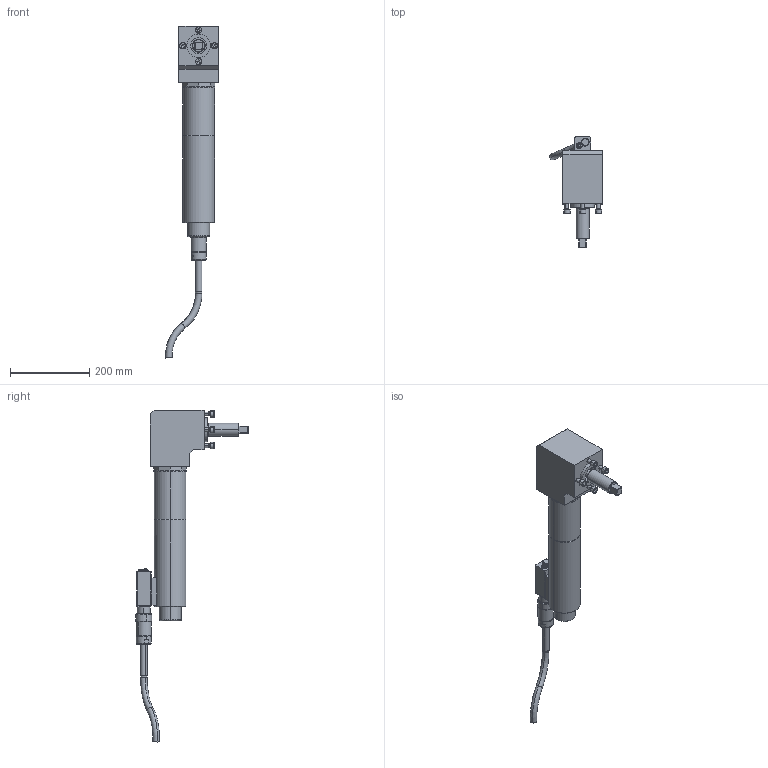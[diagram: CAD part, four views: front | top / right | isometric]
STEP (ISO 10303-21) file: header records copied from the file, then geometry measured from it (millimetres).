
FILE_DESCRIPTION(('CATIA V5 STEP'),'2;1');
FILE_NAME('O:\3D-Schrauber\stp\7920338_ECR326_AW325_AllCATPart.stp','2010-05-05T11:02:47+00:00',('none'),('none'),'CATIA Version 5 Release 19 SP 3 (IN-10)','CATIA V5 STEP AP214','none');
FILE_SCHEMA(('AUTOMOTIVE_DESIGN { 1 0 10303 214 1 1 1 1 }'));
Length unit declared in the file: millimetre
Products named in the file (1): 7920338_ECR326_AW325_AllCATPart
Bounding box: 133.82 x 283.48 x 839.16 mm (x, y, z)
Volume: 4099828.4 mm3; surface area: 294607 mm2
Topology: 12 solids, 12 shells, 331 faces, 750 edges, 470 vertices
Faces by surface type: plane 140, cylinder 111, cone 52, torus 28
Entity records: 8842 total; most frequent: CARTESIAN_POINT 1837, ORIENTED_EDGE 1484, DIRECTION 1186, EDGE_CURVE 742, AXIS2_PLACEMENT_3D 589, VERTEX_POINT 470, EDGE_LOOP 366, VECTOR 352
